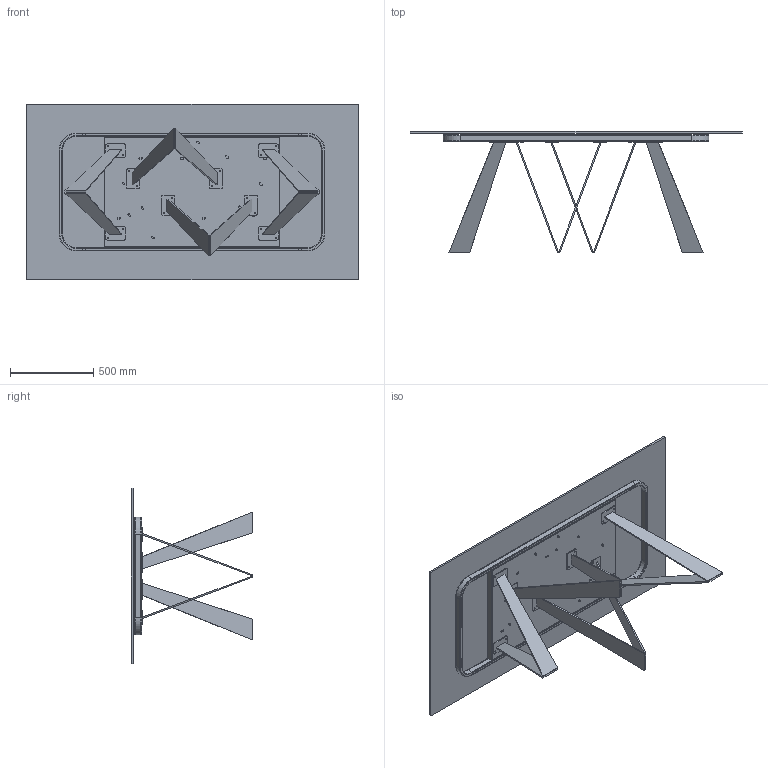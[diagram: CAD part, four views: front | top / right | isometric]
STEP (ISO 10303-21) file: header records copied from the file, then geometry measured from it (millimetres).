
FILE_DESCRIPTION (( 'STEP AP203' ), '1' );
FILE_NAME ('NO21G_Noa_200x106x75h_Glass Rectangular.STEP', '2024-08-07T14:14:45', ( '' ), ( '' ), 'SwSTEP 2.0', 'SolidWorks 2022', '' );
FILE_SCHEMA (( 'CONFIG_CONTROL_DESIGN' ));
Length unit declared in the file: millimetre
Products named in the file (11): NOA000000-00-NOA BASE GREZZA; NO21G_Noa_200x106x75h_Glass Rectangular; NOA000001GMB-00-Piastra Principale gamba NOA_Piatto DX; NOA000001PTRS-00-Piastra rettangoalre con fori; TTAV06_01-01-STRUTTURA X TAVOLI PLAI ONDA NOA 240_Default<A macchina>; MAPPA; C2XCRXX-00-Piani Rettangolari Cristallo_21 2000x1060; NOA000001GMB-00-Piastra Principale gamba NOA_Piatto SX; TTAV06_02-01-VASSOIO TAVOLI PLAI ONDA NOA 240; TTAV06-01-TELAIO X TAVOLI PLAI ONDA NOA 240cm_TTAV06; Assieme NOA var 3_noa 200-240
Assembly tree (13 placements, depth 4):
  NO21G_Noa_200x106x75h_Glass Rectangular
    C2XCRXX-00-Piani Rettangolari Cristallo_21 2000x1060
    Assieme NOA var 3_noa 200-240
      NOA000000-00-NOA BASE GREZZA  x4
        NOA000001GMB-00-Piastra Principale gamba NOA_Piatto SX
        NOA000001GMB-00-Piastra Principale gamba NOA_Piatto DX
        NOA000001PTRS-00-Piastra rettangoalre con fori
      TTAV06-01-TELAIO X TAVOLI PLAI ONDA NOA 240cm_TTAV06
        TTAV06_02-01-VASSOIO TAVOLI PLAI ONDA NOA 240
        TTAV06_01-01-STRUTTURA X TAVOLI PLAI ONDA NOA 240_Default<A macchina>
  MAPPA
Bounding box: 2000 x 731.8 x 1060 mm (x, y, z)
Volume: 34537314 mm3; surface area: 8319455.3 mm2
Topology: 26 solids, 26 shells, 652 faces, 1652 edges, 1052 vertices
Faces by surface type: plane 308, cylinder 232, cone 80, torus 32
Entity records: 17196 total; most frequent: DIRECTION 2930, CARTESIAN_POINT 2701, ORIENTED_EDGE 2656, EDGE_CURVE 1328, AXIS2_PLACEMENT_3D 1065, VERTEX_POINT 836, LINE 800, VECTOR 800
